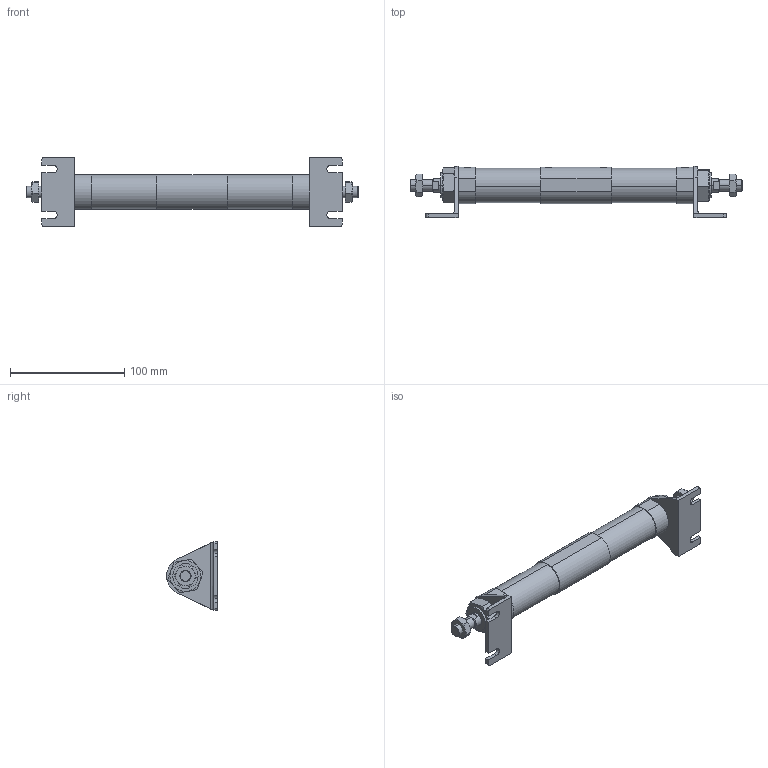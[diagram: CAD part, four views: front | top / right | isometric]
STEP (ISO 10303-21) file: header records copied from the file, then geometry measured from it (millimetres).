
FILE_DESCRIPTION (( 'STEP AP203' ), '1' );
FILE_NAME ('JGD7-25-25-25-L.STEP', '2016-04-19T07:22:47', ( '' ), ( '' ), 'SwSTEP 2.0', 'SolidWorks 2014', '' );
FILE_SCHEMA (( 'CONFIG_CONTROL_DESIGN' ));
Length unit declared in the file: millimetre
Products named in the file (7): M10x1.5-6mm; JGD2-25MI; M22x1.5-10mm; J#2-25-L; 25-25; JGD7-25-25-25-L; JGLH2-25B
Assembly tree (11 placements, depth 2):
  JGD7-25-25-25-L
    JGLH2-25B  x2
    25-25  x2
    M10x1.5-6mm  x2
    J#2-25-L  x2
    M22x1.5-10mm  x2
    JGD2-25MI
Bounding box: 290 x 44.5 x 60 mm (x, y, z)
Volume: 190274.4 mm3; surface area: 52622.7 mm2
Topology: 11 solids, 11 shells, 224 faces, 516 edges, 316 vertices
Faces by surface type: plane 96, cylinder 64, torus 48, cone 16
Entity records: 4583 total; most frequent: CARTESIAN_POINT 1064, DIRECTION 568, ORIENTED_EDGE 536, EDGE_CURVE 268, AXIS2_PLACEMENT_3D 227, VERTEX_POINT 167, EDGE_LOOP 131, FACE_OUTER_BOUND 119
